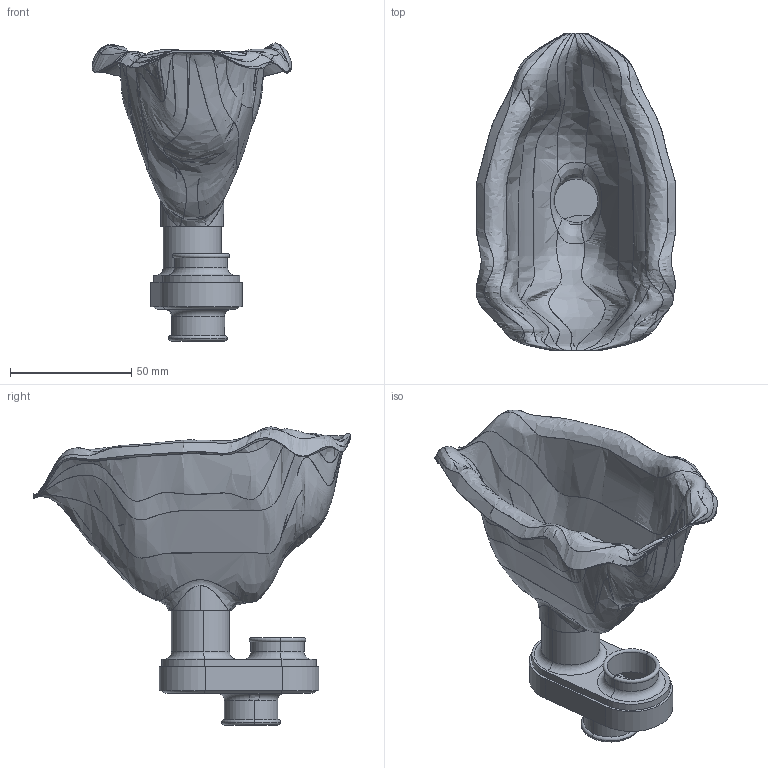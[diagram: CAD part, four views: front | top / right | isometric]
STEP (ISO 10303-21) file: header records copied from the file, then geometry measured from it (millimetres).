
FILE_DESCRIPTION(/* description */ ('SolidWorks IGES file using analytic representation for surfaces '),/* implementation_level */ '2;1');
FILE_NAME(/* name */ 'C:\Users\user\Documents\Inventor\Home Ventilator CPAP\Mask.stp',/* time_stamp */ '2020-03-29T22:39:54+02:00',/* author */ ('user'),/* organization */ (''),/* preprocessor_version */ 'ST-DEVELOPER v16.5',/* originating_system */ 'Autodesk Inventor 2017',/* authorisation */ '');
FILE_SCHEMA (('AUTOMOTIVE_DESIGN { 1 0 10303 214 3 1 1 }'));
Length unit declared in the file: millimetre
Products named in the file (5): Mask; medical mask; BODY VALVE; flap; BODY VALVE 1
Assembly tree (4 placements, depth 2):
  Mask
    medical mask
    BODY VALVE
    flap
    BODY VALVE 1
Bounding box: 82.52 x 131 x 122.98 mm (x, y, z)
Surface area: 63123.6 mm2 (no closed solid volume)
Topology: 0 solids, 112 shells, 112 faces, 598 edges, 598 vertices
Faces by surface type: bspline 34, cylinder 33, plane 29, torus 16
Entity records: 30986 total; most frequent: CARTESIAN_POINT 26445, DIRECTION 758, VERTEX_POINT 598, EDGE_CURVE 598, ORIENTED_EDGE 598, AXIS2_PLACEMENT_3D 298, B_SPLINE_CURVE_WITH_KNOTS 217, CIRCLE 207
